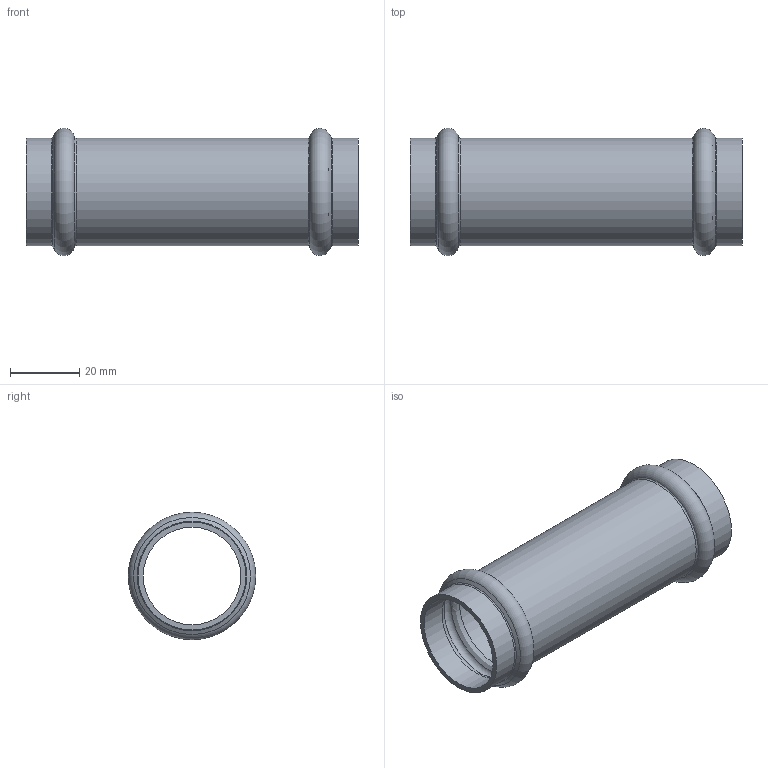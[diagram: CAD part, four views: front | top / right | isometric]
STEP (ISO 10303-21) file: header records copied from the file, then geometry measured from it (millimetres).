
FILE_DESCRIPTION((''),'2;1');
FILE_NAME('G:\Technics\CAD\Bauteile\028\69270S28(1).stp','2008-02-27T13:26:57',('herberg'),(''),'Autodesk Inventor 2008','Autodesk Inventor 2008','');
FILE_SCHEMA(('AUTOMOTIVE_DESIGN { 1 0 10303 214 1 1 1 1 }'));
Length unit declared in the file: millimetre
Products named in the file (1): 69270S28(1)
Bounding box: 96 x 36.88 x 36.88 mm (x, y, z)
Volume: 14451.6 mm3; surface area: 19547.1 mm2
Topology: 1 solids, 1 shells, 24 faces, 48 edges, 26 vertices
Faces by surface type: bspline 8, cylinder 6, cone 4, torus 4, plane 2
Full cylindrical faces by diameter (mm): 28.2 x3, 31.2 x3
Entity records: 834 total; most frequent: CARTESIAN_POINT 425, DIRECTION 82, ORIENTED_EDGE 48, EDGE_LOOP 48, AXIS2_PLACEMENT_3D 41, VERTEX_POINT 24, CIRCLE 24, EDGE_CURVE 24
